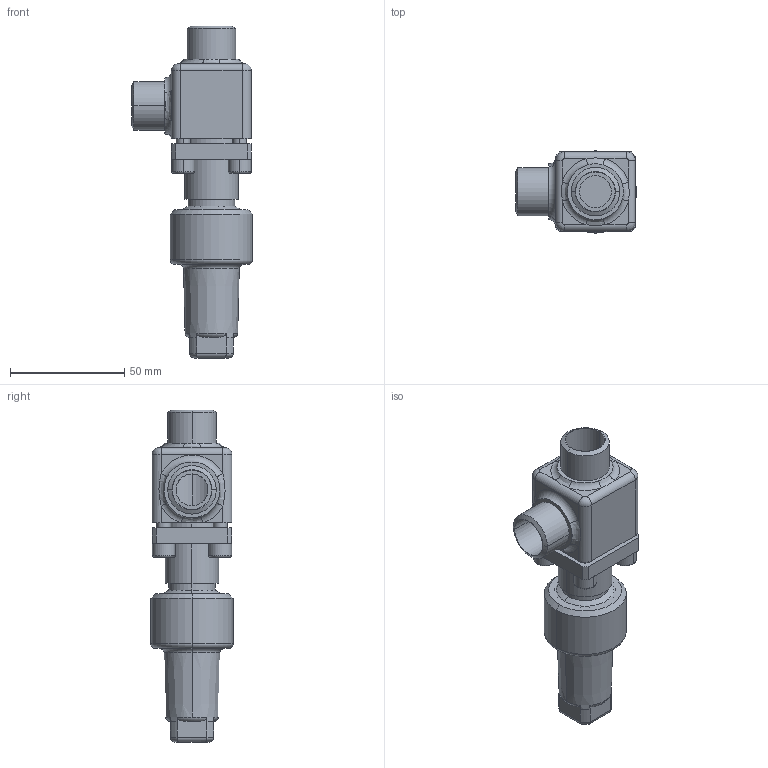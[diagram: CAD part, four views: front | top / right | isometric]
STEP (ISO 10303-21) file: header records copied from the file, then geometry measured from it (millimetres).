
FILE_DESCRIPTION (( 'STEP AP214' ), '1' );
FILE_NAME ('AVR96400-DN015_R1_PS40.STEP', '2006-05-02T08:02:29', ( 'Herr Grams' ), ( 'AWP GmbH' ), 'SwSTEP 2.0', 'SolidWorks 2002296', '' );
FILE_SCHEMA (( 'AUTOMOTIVE_DESIGN' ));
Length unit declared in the file: millimetre
Products named in the file (6): AVR96400-DN015_R1_PS40; Kappe96300E10_DN6-20_Standard; AVR96300E10_Deck+Schr-DN6-15_Standard; Deckel96300E10-DN6-15_PS40_Standard; Zylinderschraube-DIN912_M 6x 18; Gehäuse96400E10-DN15_PS40_R1_Standard
Assembly tree (8 placements, depth 3):
  AVR96400-DN015_R1_PS40
    Kappe96300E10_DN6-20_Standard
    AVR96300E10_Deck+Schr-DN6-15_Standard
      Deckel96300E10-DN6-15_PS40_Standard
      Zylinderschraube-DIN912_M 6x 18  x4
    Gehäuse96400E10-DN15_PS40_R1_Standard
Bounding box: 53 x 36 x 145.5 mm (x, y, z)
Volume: 91286.5 mm3; surface area: 32336.6 mm2
Topology: 7 solids, 7 shells, 234 faces, 517 edges, 318 vertices
Faces by surface type: cylinder 86, plane 83, torus 34, cone 24, bspline 7
Entity records: 10197 total; most frequent: CARTESIAN_POINT 5373, DIRECTION 949, ORIENTED_EDGE 806, EDGE_CURVE 403, AXIS2_PLACEMENT_3D 399, VERTEX_POINT 246, CIRCLE 214, EDGE_LOOP 207
